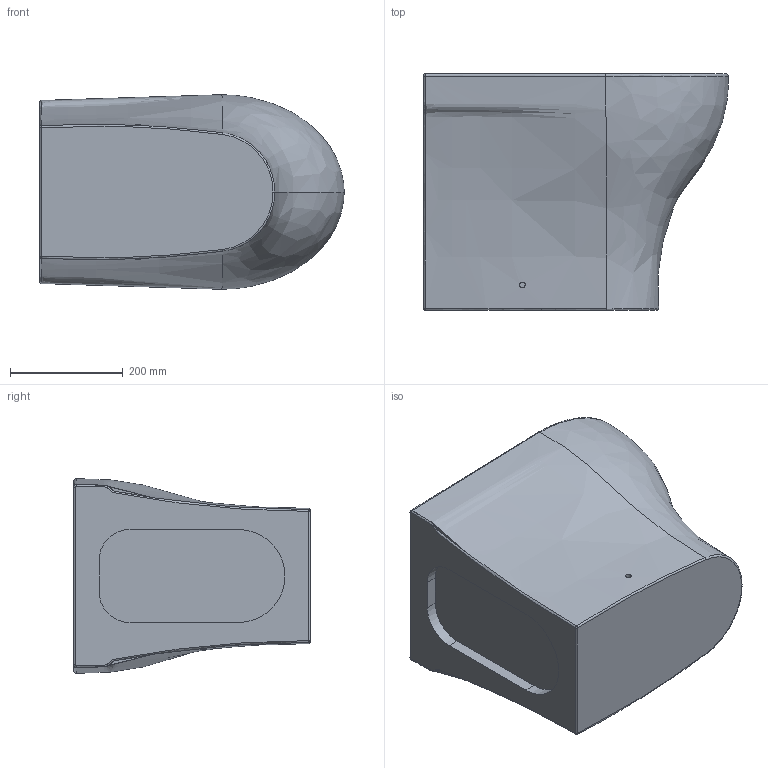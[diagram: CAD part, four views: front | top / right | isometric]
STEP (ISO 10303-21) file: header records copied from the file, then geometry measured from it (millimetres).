
FILE_DESCRIPTION (( 'STEP AP203' ), '1' );
FILE_NAME ('PABIT000000M.STEP', '2019-05-27T08:45:35', ( '' ), ( '' ), 'SwSTEP 2.0', 'SolidWorks 2019', '' );
FILE_SCHEMA (( 'CONFIG_CONTROL_DESIGN' ));
Length unit declared in the file: millimetre
Products named in the file (1): PABIT000000M
Bounding box: 540.26 x 420 x 345.29 mm (x, y, z)
Volume: 43090437.6 mm3; surface area: 938888.1 mm2
Topology: 1 solids, 1 shells, 60 faces, 142 edges, 88 vertices
Faces by surface type: bspline 26, cylinder 14, plane 12, torus 4, cone 2, sphere 2
Entity records: 8702 total; most frequent: CARTESIAN_POINT 7426, ORIENTED_EDGE 280, DIRECTION 201, EDGE_CURVE 140, VERTEX_POINT 88, AXIS2_PLACEMENT_3D 87, EDGE_LOOP 66, B_SPLINE_CURVE_WITH_KNOTS 61
